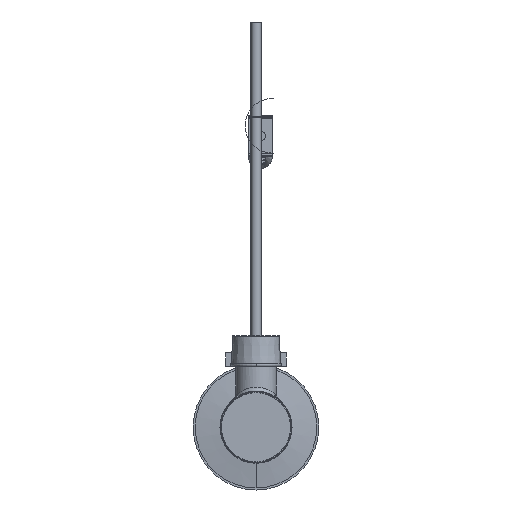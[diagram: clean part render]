
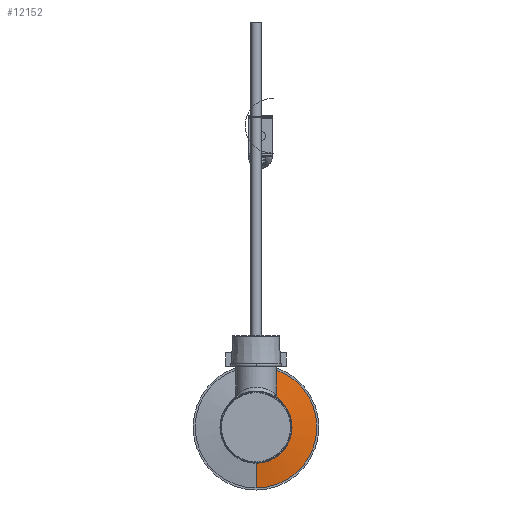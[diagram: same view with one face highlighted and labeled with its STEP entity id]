
A CAD part, front view. The second image highlights one B-rep face of the part: STEP entity #12152.
In plain terms, the highlighted conical face has half-angle 82.405 degrees and reference radius 30 mm.
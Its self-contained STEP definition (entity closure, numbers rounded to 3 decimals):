
#75 = CARTESIAN_POINT ( 'NONE',  ( 0., 37., -30. ) ) ;
#302 = CARTESIAN_POINT ( 'NONE',  ( 0., 35., 0. ) ) ;
#915 = DIRECTION ( 'NONE',  ( 0., 0., 1. ) ) ;
#917 = EDGE_CURVE ( 'NONE', #8668, #6737, #4963, .T. ) ;
#983 = ORIENTED_EDGE ( 'NONE', *, *, #12345, .F. ) ;
#1208 = DIRECTION ( 'NONE',  ( 0., 0., 1. ) ) ;
#1730 = EDGE_CURVE ( 'NONE', #8245, #10993, #4262, .T. ) ;
#2059 = DIRECTION ( 'NONE',  ( 0., 1., 0. ) ) ;
#2082 = AXIS2_PLACEMENT_3D ( 'NONE', #302, #5340, #11339 ) ;
#2523 = CARTESIAN_POINT ( 'NONE',  ( 0., 35., 15. ) ) ;
#2817 = CARTESIAN_POINT ( 'NONE',  ( 0., 37., 0. ) ) ;
#3045 = DIRECTION ( 'NONE',  ( 0., 0.132, -0.991 ) ) ;
#3151 = ORIENTED_EDGE ( 'NONE', *, *, #1730, .T. ) ;
#3164 = AXIS2_PLACEMENT_3D ( 'NONE', #6152, #2059, #1208 ) ;
#3291 = FACE_OUTER_BOUND ( 'NONE', #12739, .T. ) ;
#4262 = LINE ( 'NONE', #75, #7425 ) ;
#4268 = EDGE_CURVE ( 'NONE', #6737, #10993, #5226, .T. ) ;
#4466 = AXIS2_PLACEMENT_3D ( 'NONE', #2817, #6866, #915 ) ;
#4686 = DIRECTION ( 'NONE',  ( 0., 0.132, 0.991 ) ) ;
#4719 = CIRCLE ( 'NONE', #2082, 15. ) ;
#4963 = LINE ( 'NONE', #5771, #11951 ) ;
#5226 = CIRCLE ( 'NONE', #4466, 30. ) ;
#5340 = DIRECTION ( 'NONE',  ( 0., -1., 0. ) ) ;
#5771 = CARTESIAN_POINT ( 'NONE',  ( 0., 37., 30. ) ) ;
#6152 = CARTESIAN_POINT ( 'NONE',  ( 0., 37., 0. ) ) ;
#6482 = CARTESIAN_POINT ( 'NONE',  ( 0., 35., -15. ) ) ;
#6737 = VERTEX_POINT ( 'NONE', #7757 ) ;
#6866 = DIRECTION ( 'NONE',  ( 0., 1., 0. ) ) ;
#7368 = CONICAL_SURFACE ( 'NONE', #3164, 30., 1.438 ) ;
#7425 = VECTOR ( 'NONE', #3045, 1000. ) ;
#7757 = CARTESIAN_POINT ( 'NONE',  ( 0., 37., 30. ) ) ;
#8245 = VERTEX_POINT ( 'NONE', #6482 ) ;
#8668 = VERTEX_POINT ( 'NONE', #2523 ) ;
#10096 = ORIENTED_EDGE ( 'NONE', *, *, #917, .F. ) ;
#10993 = VERTEX_POINT ( 'NONE', #11124 ) ;
#11124 = CARTESIAN_POINT ( 'NONE',  ( 0., 37., -30. ) ) ;
#11339 = DIRECTION ( 'NONE',  ( 0., 0., 1. ) ) ;
#11641 = ORIENTED_EDGE ( 'NONE', *, *, #4268, .F. ) ;
#11951 = VECTOR ( 'NONE', #4686, 1000. ) ;
#12152 = ADVANCED_FACE ( 'NONE', ( #3291 ), #7368, .T. ) ;
#12345 = EDGE_CURVE ( 'NONE', #8245, #8668, #4719, .T. ) ;
#12739 = EDGE_LOOP ( 'NONE', ( #983, #3151, #11641, #10096 ) ) ;
